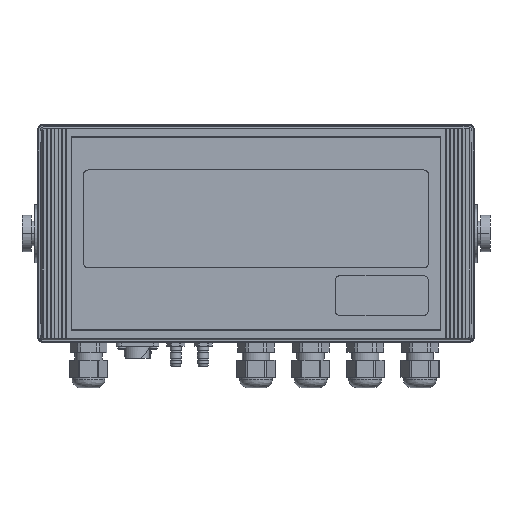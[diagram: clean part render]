
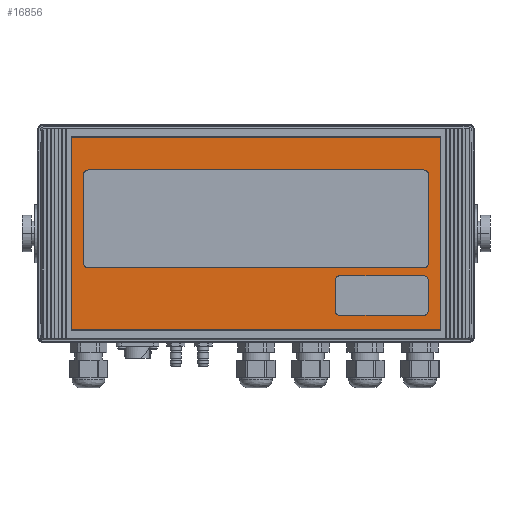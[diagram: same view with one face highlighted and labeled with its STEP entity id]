
A CAD part, top view. The second image highlights one B-rep face of the part: STEP entity #16856.
In plain terms, the highlighted planar face has unit normal (0, 0, 1).
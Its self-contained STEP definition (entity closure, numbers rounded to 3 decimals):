
#2384=CARTESIAN_POINT('',(100.9,52.3,60.));
#2385=DIRECTION('',(0.,0.,1.));
#2386=DIRECTION('',(1.,0.,0.));
#2387=AXIS2_PLACEMENT_3D('',#2384,#2385,#2386);
#2389=DIRECTION('',(0.,1.,0.));
#2390=VECTOR('',#2389,104.6);
#2391=CARTESIAN_POINT('',(101.4,-52.3,60.));
#2392=LINE('',#2391,#2390);
#2393=CARTESIAN_POINT('',(100.9,-52.3,60.));
#2394=DIRECTION('',(0.,0.,1.));
#2395=DIRECTION('',(0.,-1.,0.));
#2396=AXIS2_PLACEMENT_3D('',#2393,#2394,#2395);
#2398=DIRECTION('',(1.,0.,0.));
#2399=VECTOR('',#2398,201.8);
#2400=CARTESIAN_POINT('',(-100.9,-52.8,60.));
#2401=LINE('',#2400,#2399);
#2402=CARTESIAN_POINT('',(-100.9,-52.3,60.));
#2403=DIRECTION('',(0.,0.,1.));
#2404=DIRECTION('',(-1.,0.,0.));
#2405=AXIS2_PLACEMENT_3D('',#2402,#2403,#2404);
#2407=DIRECTION('',(0.,-1.,0.));
#2408=VECTOR('',#2407,104.6);
#2409=CARTESIAN_POINT('',(-101.4,52.3,60.));
#2410=LINE('',#2409,#2408);
#2411=CARTESIAN_POINT('',(-100.9,52.3,60.));
#2412=DIRECTION('',(0.,0.,1.));
#2413=DIRECTION('',(0.,1.,0.));
#2414=AXIS2_PLACEMENT_3D('',#2411,#2412,#2413);
#2416=DIRECTION('',(-1.,0.,0.));
#2417=VECTOR('',#2416,201.8);
#2418=CARTESIAN_POINT('',(100.9,52.8,60.));
#2419=LINE('',#2418,#2417);
#2420=DIRECTION('',(0.,1.,0.));
#2421=VECTOR('',#2420,16.7);
#2422=CARTESIAN_POINT('',(94.5,-42.5,60.));
#2423=LINE('',#2422,#2421);
#2424=DIRECTION('',(-1.,0.,0.));
#2425=VECTOR('',#2424,46.);
#2426=CARTESIAN_POINT('',(92.,-23.3,60.));
#2427=LINE('',#2426,#2425);
#2428=DIRECTION('',(0.,-1.,0.));
#2429=VECTOR('',#2428,16.7);
#2430=CARTESIAN_POINT('',(43.5,-25.8,60.));
#2431=LINE('',#2430,#2429);
#2432=DIRECTION('',(1.,0.,0.));
#2433=VECTOR('',#2432,46.);
#2434=CARTESIAN_POINT('',(46.,-45.,60.));
#2435=LINE('',#2434,#2433);
#2436=DIRECTION('',(1.,0.,0.));
#2437=VECTOR('',#2436,184.5);
#2438=CARTESIAN_POINT('',(-92.25,-19.,60.));
#2439=LINE('',#2438,#2437);
#2440=DIRECTION('',(0.,1.,0.));
#2441=VECTOR('',#2440,48.8);
#2442=CARTESIAN_POINT('',(94.75,-16.5,60.));
#2443=LINE('',#2442,#2441);
#2444=DIRECTION('',(-1.,0.,0.));
#2445=VECTOR('',#2444,184.5);
#2446=CARTESIAN_POINT('',(92.25,34.8,60.));
#2447=LINE('',#2446,#2445);
#2448=DIRECTION('',(0.,-1.,0.));
#2449=VECTOR('',#2448,48.8);
#2450=CARTESIAN_POINT('',(-94.75,32.3,60.));
#2451=LINE('',#2450,#2449);
#2504=CARTESIAN_POINT('',(46.,-42.5,60.));
#2505=DIRECTION('',(0.,0.,-1.));
#2506=DIRECTION('',(0.,-1.,0.));
#2507=AXIS2_PLACEMENT_3D('',#2504,#2505,#2506);
#2517=CARTESIAN_POINT('',(92.,-42.5,60.));
#2518=DIRECTION('',(0.,0.,-1.));
#2519=DIRECTION('',(1.,0.,0.));
#2520=AXIS2_PLACEMENT_3D('',#2517,#2518,#2519);
#2522=CARTESIAN_POINT('',(46.,-25.8,60.));
#2523=DIRECTION('',(0.,0.,-1.));
#2524=DIRECTION('',(-1.,0.,0.));
#2525=AXIS2_PLACEMENT_3D('',#2522,#2523,#2524);
#2535=CARTESIAN_POINT('',(92.,-25.8,60.));
#2536=DIRECTION('',(0.,0.,-1.));
#2537=DIRECTION('',(0.,1.,0.));
#2538=AXIS2_PLACEMENT_3D('',#2535,#2536,#2537);
#2592=CARTESIAN_POINT('',(-92.25,-16.5,60.));
#2593=DIRECTION('',(0.,0.,-1.));
#2594=DIRECTION('',(0.,-1.,0.));
#2595=AXIS2_PLACEMENT_3D('',#2592,#2593,#2594);
#2597=CARTESIAN_POINT('',(-92.25,32.3,60.));
#2598=DIRECTION('',(0.,0.,-1.));
#2599=DIRECTION('',(-1.,0.,0.));
#2600=AXIS2_PLACEMENT_3D('',#2597,#2598,#2599);
#2610=CARTESIAN_POINT('',(92.25,32.3,60.));
#2611=DIRECTION('',(0.,0.,-1.));
#2612=DIRECTION('',(0.,1.,0.));
#2613=AXIS2_PLACEMENT_3D('',#2610,#2611,#2612);
#2623=CARTESIAN_POINT('',(92.25,-16.5,60.));
#2624=DIRECTION('',(0.,0.,-1.));
#2625=DIRECTION('',(1.,0.,0.));
#2626=AXIS2_PLACEMENT_3D('',#2623,#2624,#2625);
#14553=CARTESIAN_POINT('',(-94.75,32.3,60.));
#14554=CARTESIAN_POINT('',(-94.75,-16.5,60.));
#14555=VERTEX_POINT('',#14553);
#14556=VERTEX_POINT('',#14554);
#14557=CARTESIAN_POINT('',(-92.25,-19.,60.));
#14558=CARTESIAN_POINT('',(92.25,-19.,60.));
#14559=VERTEX_POINT('',#14557);
#14560=VERTEX_POINT('',#14558);
#14561=CARTESIAN_POINT('',(94.75,-16.5,60.));
#14562=CARTESIAN_POINT('',(94.75,32.3,60.));
#14563=VERTEX_POINT('',#14561);
#14564=VERTEX_POINT('',#14562);
#14565=CARTESIAN_POINT('',(92.25,34.8,60.));
#14566=CARTESIAN_POINT('',(-92.25,34.8,60.));
#14567=VERTEX_POINT('',#14565);
#14568=VERTEX_POINT('',#14566);
#14569=CARTESIAN_POINT('',(43.5,-25.8,60.));
#14570=CARTESIAN_POINT('',(43.5,-42.5,60.));
#14571=VERTEX_POINT('',#14569);
#14572=VERTEX_POINT('',#14570);
#14573=CARTESIAN_POINT('',(46.,-45.,60.));
#14574=CARTESIAN_POINT('',(92.,-45.,60.));
#14575=VERTEX_POINT('',#14573);
#14576=VERTEX_POINT('',#14574);
#14577=CARTESIAN_POINT('',(94.5,-42.5,60.));
#14578=CARTESIAN_POINT('',(94.5,-25.8,60.));
#14579=VERTEX_POINT('',#14577);
#14580=VERTEX_POINT('',#14578);
#14581=CARTESIAN_POINT('',(92.,-23.3,60.));
#14582=CARTESIAN_POINT('',(46.,-23.3,60.));
#14583=VERTEX_POINT('',#14581);
#14584=VERTEX_POINT('',#14582);
#14585=CARTESIAN_POINT('',(101.4,52.3,60.));
#14586=CARTESIAN_POINT('',(100.9,52.8,60.));
#14587=VERTEX_POINT('',#14585);
#14588=VERTEX_POINT('',#14586);
#14589=CARTESIAN_POINT('',(100.9,-52.8,60.));
#14590=CARTESIAN_POINT('',(101.4,-52.3,60.));
#14591=VERTEX_POINT('',#14589);
#14592=VERTEX_POINT('',#14590);
#14593=CARTESIAN_POINT('',(-101.4,-52.3,60.));
#14594=CARTESIAN_POINT('',(-100.9,-52.8,60.));
#14595=VERTEX_POINT('',#14593);
#14596=VERTEX_POINT('',#14594);
#14597=CARTESIAN_POINT('',(-100.9,52.8,60.));
#14598=CARTESIAN_POINT('',(-101.4,52.3,60.));
#14599=VERTEX_POINT('',#14597);
#14600=VERTEX_POINT('',#14598);
#16805=CARTESIAN_POINT('',(0.,0.,60.));
#16806=DIRECTION('',(0.,0.,1.));
#16807=DIRECTION('',(1.,0.,0.));
#16808=AXIS2_PLACEMENT_3D('',#16805,#16806,#16807);
#16809=PLANE('',#16808);
#16810=ORIENTED_EDGE('',*,*,#16744,.F.);
#16811=ORIENTED_EDGE('',*,*,#16758,.F.);
#16812=ORIENTED_EDGE('',*,*,#16772,.F.);
#16813=ORIENTED_EDGE('',*,*,#16786,.F.);
#16814=ORIENTED_EDGE('',*,*,#16799,.F.);
#16815=ORIENTED_EDGE('',*,*,#16701,.F.);
#16816=ORIENTED_EDGE('',*,*,#16716,.F.);
#16817=ORIENTED_EDGE('',*,*,#16730,.F.);
#16818=EDGE_LOOP('',(#16810,#16811,#16812,#16813,#16814,#16815,#16816,#16817));
#16819=FACE_OUTER_BOUND('',#16818,.F.);
#16821=ORIENTED_EDGE('',*,*,#16820,.T.);
#16823=ORIENTED_EDGE('',*,*,#16822,.F.);
#16825=ORIENTED_EDGE('',*,*,#16824,.T.);
#16827=ORIENTED_EDGE('',*,*,#16826,.F.);
#16829=ORIENTED_EDGE('',*,*,#16828,.T.);
#16831=ORIENTED_EDGE('',*,*,#16830,.F.);
#16833=ORIENTED_EDGE('',*,*,#16832,.T.);
#16835=ORIENTED_EDGE('',*,*,#16834,.F.);
#16836=EDGE_LOOP('',(#16821,#16823,#16825,#16827,#16829,#16831,#16833,#16835));
#16837=FACE_BOUND('',#16836,.F.);
#16839=ORIENTED_EDGE('',*,*,#16838,.T.);
#16841=ORIENTED_EDGE('',*,*,#16840,.F.);
#16843=ORIENTED_EDGE('',*,*,#16842,.T.);
#16845=ORIENTED_EDGE('',*,*,#16844,.F.);
#16847=ORIENTED_EDGE('',*,*,#16846,.T.);
#16849=ORIENTED_EDGE('',*,*,#16848,.F.);
#16851=ORIENTED_EDGE('',*,*,#16850,.T.);
#16853=ORIENTED_EDGE('',*,*,#16852,.F.);
#16854=EDGE_LOOP('',(#16839,#16841,#16843,#16845,#16847,#16849,#16851,#16853));
#16855=FACE_BOUND('',#16854,.F.);
#2388=CIRCLE('',#2387,0.5);
#2397=CIRCLE('',#2396,0.5);
#2406=CIRCLE('',#2405,0.5);
#2415=CIRCLE('',#2414,0.5);
#2508=CIRCLE('',#2507,2.5);
#2521=CIRCLE('',#2520,2.5);
#2526=CIRCLE('',#2525,2.5);
#2539=CIRCLE('',#2538,2.5);
#2596=CIRCLE('',#2595,2.5);
#2601=CIRCLE('',#2600,2.5);
#2614=CIRCLE('',#2613,2.5);
#2627=CIRCLE('',#2626,2.5);
#16701=EDGE_CURVE('',#14600,#14595,#2410,.T.);
#16716=EDGE_CURVE('',#14599,#14600,#2415,.T.);
#16730=EDGE_CURVE('',#14588,#14599,#2419,.T.);
#16744=EDGE_CURVE('',#14587,#14588,#2388,.T.);
#16758=EDGE_CURVE('',#14592,#14587,#2392,.T.);
#16772=EDGE_CURVE('',#14591,#14592,#2397,.T.);
#16786=EDGE_CURVE('',#14596,#14591,#2401,.T.);
#16799=EDGE_CURVE('',#14595,#14596,#2406,.T.);
#16820=EDGE_CURVE('',#14579,#14580,#2423,.T.);
#16822=EDGE_CURVE('',#14583,#14580,#2539,.T.);
#16824=EDGE_CURVE('',#14583,#14584,#2427,.T.);
#16826=EDGE_CURVE('',#14571,#14584,#2526,.T.);
#16828=EDGE_CURVE('',#14571,#14572,#2431,.T.);
#16830=EDGE_CURVE('',#14575,#14572,#2508,.T.);
#16832=EDGE_CURVE('',#14575,#14576,#2435,.T.);
#16834=EDGE_CURVE('',#14579,#14576,#2521,.T.);
#16838=EDGE_CURVE('',#14559,#14560,#2439,.T.);
#16840=EDGE_CURVE('',#14563,#14560,#2627,.T.);
#16842=EDGE_CURVE('',#14563,#14564,#2443,.T.);
#16844=EDGE_CURVE('',#14567,#14564,#2614,.T.);
#16846=EDGE_CURVE('',#14567,#14568,#2447,.T.);
#16848=EDGE_CURVE('',#14555,#14568,#2601,.T.);
#16850=EDGE_CURVE('',#14555,#14556,#2451,.T.);
#16852=EDGE_CURVE('',#14559,#14556,#2596,.T.);
#16856=ADVANCED_FACE('',(#16819,#16837,#16855),#16809,.T.);
